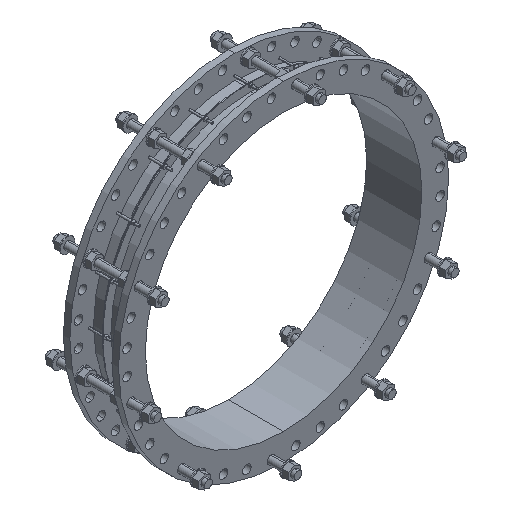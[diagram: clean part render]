
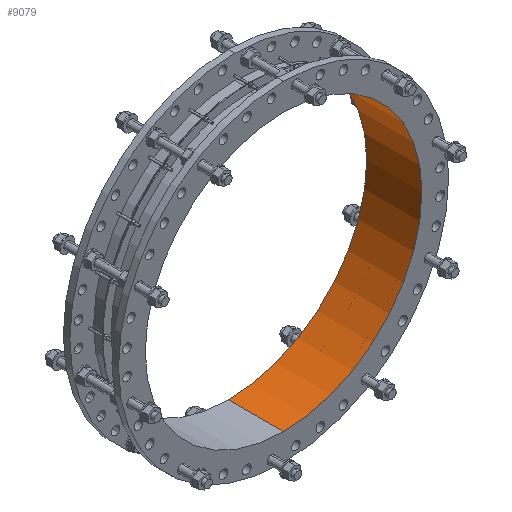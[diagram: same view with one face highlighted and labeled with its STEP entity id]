
A CAD part, isometric view. The second image highlights one B-rep face of the part: STEP entity #9079.
In plain terms, the highlighted cylindrical face has radius 802 mm (diameter 1604 mm), a partial arc.
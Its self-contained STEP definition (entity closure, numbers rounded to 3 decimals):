
#7=DIRECTION('',(0.,-1.,0.));
#8=VECTOR('',#7,320.);
#9=CARTESIAN_POINT('',(0.,0.,-802.));
#10=LINE('',#9,#8);
#11=CARTESIAN_POINT('',(0.,0.,0.));
#12=DIRECTION('',(0.,-1.,0.));
#13=DIRECTION('',(0.,0.,-1.));
#14=AXIS2_PLACEMENT_3D('',#11,#12,#13);
#16=DIRECTION('',(0.,-1.,0.));
#17=VECTOR('',#16,320.);
#18=CARTESIAN_POINT('',(0.,0.,802.));
#19=LINE('',#18,#17);
#2754=CARTESIAN_POINT('',(0.,-320.,0.));
#2755=DIRECTION('',(0.,-1.,0.));
#2756=DIRECTION('',(0.,0.,-1.));
#2757=AXIS2_PLACEMENT_3D('',#2754,#2755,#2756);
#7310=CARTESIAN_POINT('',(0.,0.,-802.));
#7311=CARTESIAN_POINT('',(0.,-320.,-802.));
#7312=VERTEX_POINT('',#7310);
#7313=VERTEX_POINT('',#7311);
#7330=CARTESIAN_POINT('',(0.,0.,802.));
#7331=CARTESIAN_POINT('',(0.,-320.,802.));
#7332=VERTEX_POINT('',#7330);
#7333=VERTEX_POINT('',#7331);
#9066=CARTESIAN_POINT('',(0.,-336.,0.));
#9067=DIRECTION('',(0.,1.,0.));
#9068=DIRECTION('',(0.,0.,-1.));
#9069=AXIS2_PLACEMENT_3D('',#9066,#9067,#9068);
#9070=CYLINDRICAL_SURFACE('',#9069,802.);
#9071=ORIENTED_EDGE('',*,*,#9055,.F.);
#9073=ORIENTED_EDGE('',*,*,#9072,.T.);
#9074=ORIENTED_EDGE('',*,*,#9059,.T.);
#9076=ORIENTED_EDGE('',*,*,#9075,.F.);
#9077=EDGE_LOOP('',(#9071,#9073,#9074,#9076));
#9078=FACE_OUTER_BOUND('',#9077,.F.);
#9079=ADVANCED_FACE('',(#9078),#9070,.F.);
#15=CIRCLE('',#14,802.);
#2758=CIRCLE('',#2757,802.);
#9055=EDGE_CURVE('',#7312,#7313,#10,.T.);
#9059=EDGE_CURVE('',#7332,#7333,#19,.T.);
#9072=EDGE_CURVE('',#7312,#7332,#15,.T.);
#9075=EDGE_CURVE('',#7313,#7333,#2758,.T.);
